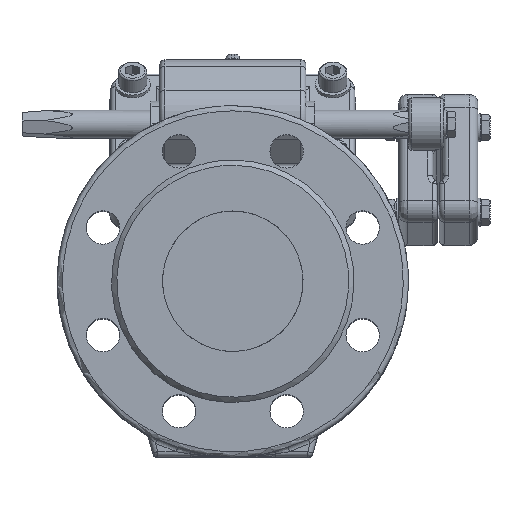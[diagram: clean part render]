
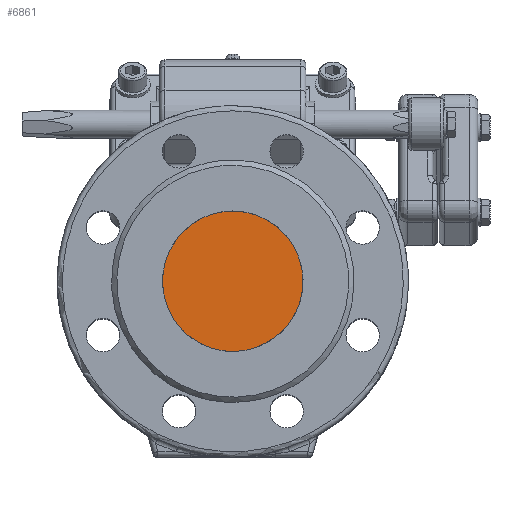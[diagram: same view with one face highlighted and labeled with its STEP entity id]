
A CAD part, top view. The second image highlights one B-rep face of the part: STEP entity #6861.
In plain terms, the highlighted planar face has unit normal (0, 0, 1).
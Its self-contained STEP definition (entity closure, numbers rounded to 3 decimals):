
#6861=ADVANCED_FACE('',(#19208),#19210,.F.);
#19208=FACE_BOUND('',#19209,.T.);
#19209=EDGE_LOOP('',(#27157,#27158));
#19210=PLANE('',#19211);
#19211=AXIS2_PLACEMENT_3D('',#19212,#19213,#19214);
#19212=CARTESIAN_POINT('',(0.,-40.002,70.592));
#19213=DIRECTION('',(0.,0.,-1.));
#19214=DIRECTION('',(-1.,0.,0.));
#27157=ORIENTED_EDGE('',*,*,#30817,.T.);
#27158=ORIENTED_EDGE('',*,*,#30818,.T.);
#30817=EDGE_CURVE('',#34821,#34822,#34823,.T.);
#30818=EDGE_CURVE('',#34822,#34821,#34824,.T.);
#34821=VERTEX_POINT('',#62804);
#34822=VERTEX_POINT('',#62805);
#34823=CIRCLE('',#62806,40.);
#34824=CIRCLE('',#62810,40.);
#62804=CARTESIAN_POINT('',(-40.,0.,70.592));
#62805=CARTESIAN_POINT('',(-28.284,28.284,70.592));
#62806=AXIS2_PLACEMENT_3D('',#62807,#62808,#62809);
#62807=CARTESIAN_POINT('',(0.,0.,70.592));
#62808=DIRECTION('',(0.,0.,1.));
#62809=DIRECTION('',(-1.,0.,0.));
#62810=AXIS2_PLACEMENT_3D('',#62811,#62812,#62813);
#62811=CARTESIAN_POINT('',(0.,0.,70.592));
#62812=DIRECTION('',(0.,0.,1.));
#62813=DIRECTION('',(-0.707,0.707,0.));
